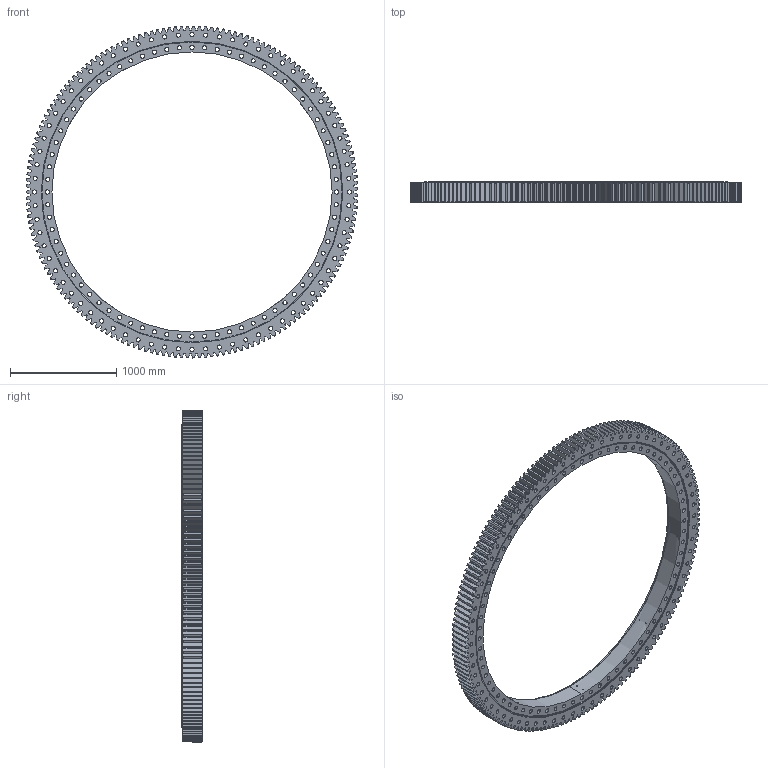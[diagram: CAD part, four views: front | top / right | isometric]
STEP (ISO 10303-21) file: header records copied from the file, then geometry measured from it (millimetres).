
FILE_DESCRIPTION (( 'STEP AP214' ), '1' );
FILE_NAME ('B2250-2-3128AA.STEP', '2022-11-28T15:05:14', ( '' ), ( '' ), 'SwSTEP 2.0', 'SolidWorks 2020', '' );
FILE_SCHEMA (( 'AUTOMOTIVE_DESIGN' ));
Length unit declared in the file: millimetre
Products named in the file (1): B2250-2-3128AA
Bounding box: 3128.26 x 190 x 3128.37 mm (x, y, z)
Volume: 334845196 mm3; surface area: 15963696.3 mm2
Topology: 4 solids, 4 shells, 1626 faces, 4771 edges, 3180 vertices
Faces by surface type: cylinder 557, plane 377, cone 350, bspline 342
Entity records: 58612 total; most frequent: CARTESIAN_POINT 17146, ORIENTED_EDGE 9542, DIRECTION 7291, EDGE_CURVE 4771, VERTEX_POINT 3180, AXIS2_PLACEMENT_3D 2679, EDGE_LOOP 1985, VECTOR 1933
